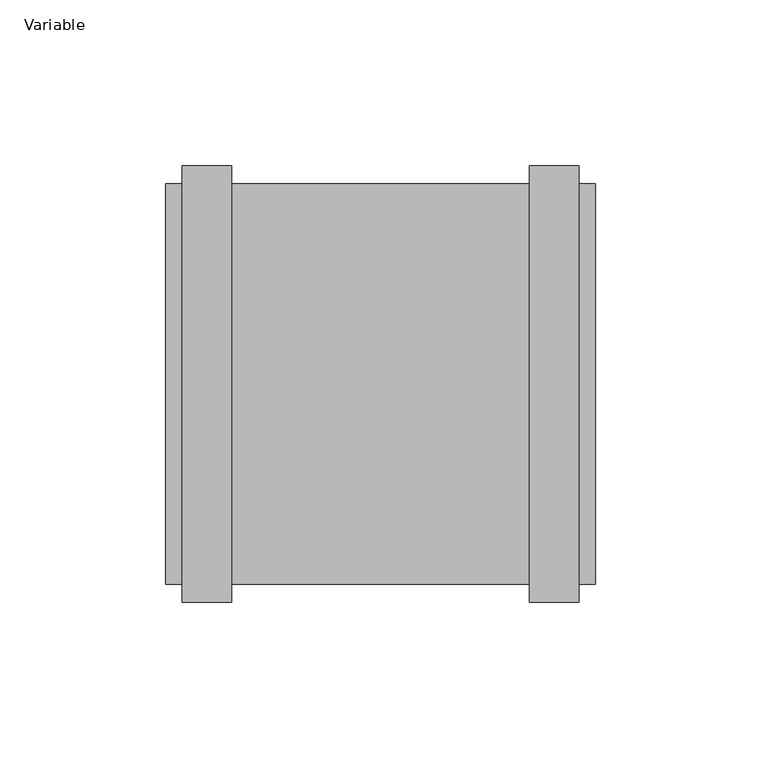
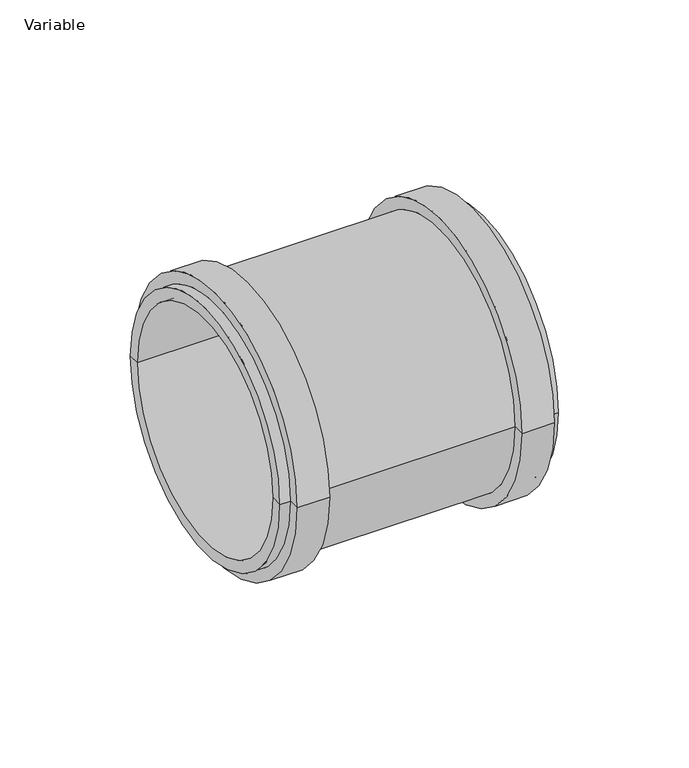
"""IFC4 building model written with IfcOpenShell, lengths in millimetres: pipe fitting geometry, AliaxisFR_Friaphon_SimpleCoupling_FR : Variable."""

from ifc_helpers import new_model, si_unit, frame, origin, place, context, project, spatial, polyline, circle_curve, source, transform, mapped, element, save
from ifc_brep_helpers import plane_surface, cylinder_surface, revolved_surface, advanced_brep


def variable_f8c56fae(model_context):
    return source(origin(), model_context, "Body", "AdvancedBrep", [
        advanced_brep(
        [(67.5, -60.5, 0.0), (67.5, 60.5, 0.0), (67.5, 55.0, 0.0), (67.5, -55.0, 0.0), (62.5, -60.5, 0.0), (62.5, 60.5, 0.0), (62.5, -66.0, 0.0), (62.5, 66.0, 0.0), (47.5, -66.0, 0.0), (47.5, 66.0, 0.0), (47.5, -60.5, 0.0), (47.5, 60.5, 0.0), (-42.5, -60.5, 0.0), (-42.5, 60.5, 0.0), (-42.5, -66.0, 0.0), (-42.5, 66.0, 0.0), (-57.5, -66.0, 0.0), (-57.5, 66.0, 0.0), (-57.5, -60.5, 0.0), (-57.5, 60.5, 0.0), (-62.5, -60.5, 0.0), (-62.5, 60.5, 0.0), (-62.5, -55.0, 0.0), (-62.5, 55.0, 0.0)],
        [
            (0, 1, circle_curve(frame((67.5, 0.0, 0.0), z_axis=(1.0, 0.0, 0.0), x_axis=(0.0, 1.0, 0.0)), 60.5)),
            (1, 2),
            (2, 3, circle_curve(frame((67.5, 0.0, 0.0), z_axis=(-1.0, 0.0, 0.0), x_axis=(0.0, 1.0, 0.0)), 55.0)),
            (3, 0),
            (1, 0, circle_curve(frame((67.5, 0.0, 0.0), z_axis=(1.0, 0.0, 0.0), x_axis=(0.0, 1.0, 0.0)), 60.5)),
            (3, 2, circle_curve(frame((67.5, 0.0, 0.0), z_axis=(-1.0, 0.0, 0.0), x_axis=(0.0, 1.0, 0.0)), 55.0)),
            (4, 5, circle_curve(frame((62.5, 0.0, 0.0), z_axis=(1.0, 0.0, 0.0), x_axis=(0.0, 1.0, 0.0)), 60.5)),
            (5, 1),
            (0, 4),
            (5, 4, circle_curve(frame((62.5, 0.0, 0.0), z_axis=(1.0, 0.0, 0.0), x_axis=(0.0, 1.0, 0.0)), 60.5)),
            (6, 7, circle_curve(frame((62.5, 0.0, 0.0), z_axis=(1.0, 0.0, 0.0), x_axis=(0.0, 1.0, 0.0)), 66.0)),
            (7, 5),
            (4, 6),
            (7, 6, circle_curve(frame((62.5, 0.0, 0.0), z_axis=(1.0, 0.0, 0.0), x_axis=(0.0, 1.0, 0.0)), 66.0)),
            (8, 9, circle_curve(frame((47.5, 0.0, 0.0), z_axis=(1.0, 0.0, 0.0), x_axis=(0.0, 1.0, 0.0)), 66.0)),
            (9, 7),
            (6, 8),
            (9, 8, circle_curve(frame((47.5, 0.0, 0.0), z_axis=(1.0, 0.0, 0.0), x_axis=(0.0, 1.0, 0.0)), 66.0)),
            (10, 11, circle_curve(frame((47.5, 0.0, 0.0), z_axis=(1.0, 0.0, 0.0), x_axis=(0.0, 1.0, 0.0)), 60.5)),
            (11, 9),
            (8, 10),
            (11, 10, circle_curve(frame((47.5, 0.0, 0.0), z_axis=(1.0, 0.0, 0.0), x_axis=(0.0, 1.0, 0.0)), 60.5)),
            (12, 13, circle_curve(frame((-42.5, 0.0, 0.0), z_axis=(1.0, 0.0, 0.0), x_axis=(0.0, 1.0, 0.0)), 60.5)),
            (13, 11),
            (10, 12),
            (13, 12, circle_curve(frame((-42.5, 0.0, 0.0), z_axis=(1.0, 0.0, 0.0), x_axis=(0.0, 1.0, 0.0)), 60.5)),
            (14, 15, circle_curve(frame((-42.5, 0.0, 0.0), z_axis=(1.0, 0.0, 0.0), x_axis=(0.0, 1.0, 0.0)), 66.0)),
            (15, 13),
            (12, 14),
            (15, 14, circle_curve(frame((-42.5, 0.0, 0.0), z_axis=(1.0, 0.0, 0.0), x_axis=(0.0, 1.0, 0.0)), 66.0)),
            (16, 17, circle_curve(frame((-57.5, 0.0, 0.0), z_axis=(1.0, 0.0, 0.0), x_axis=(0.0, 1.0, 0.0)), 66.0)),
            (17, 15),
            (14, 16),
            (17, 16, circle_curve(frame((-57.5, 0.0, 0.0), z_axis=(1.0, 0.0, 0.0), x_axis=(0.0, 1.0, 0.0)), 66.0)),
            (18, 19, circle_curve(frame((-57.5, 0.0, 0.0), z_axis=(1.0, 0.0, 0.0), x_axis=(0.0, 1.0, 0.0)), 60.5)),
            (19, 17),
            (16, 18),
            (19, 18, circle_curve(frame((-57.5, 0.0, 0.0), z_axis=(1.0, 0.0, 0.0), x_axis=(0.0, 1.0, 0.0)), 60.5)),
            (20, 21, circle_curve(frame((-62.5, 0.0, 0.0), z_axis=(1.0, 0.0, 0.0), x_axis=(0.0, 1.0, 0.0)), 60.5)),
            (21, 19),
            (18, 20),
            (21, 20, circle_curve(frame((-62.5, 0.0, 0.0), z_axis=(1.0, 0.0, 0.0), x_axis=(0.0, 1.0, 0.0)), 60.5)),
            (22, 23, circle_curve(frame((-62.5, 0.0, 0.0), z_axis=(1.0, 0.0, 0.0), x_axis=(0.0, 1.0, 0.0)), 55.0)),
            (23, 21),
            (20, 22),
            (23, 22, circle_curve(frame((-62.5, 0.0, 0.0), z_axis=(1.0, 0.0, 0.0), x_axis=(0.0, 1.0, 0.0)), 55.0)),
            (2, 23),
            (22, 3),
        ],
        [
            plane_surface(frame((67.5, 0.0, 0.0), z_axis=(1.0, 0.0, 0.0), x_axis=(0.0, 1.0, 0.0))),
            cylinder_surface(frame((2015.5, 0.0, 0.0), z_axis=(-1.0, 0.0, 0.0), x_axis=(0.0, 1.0, 0.0)), 60.5),
            plane_surface(frame((62.5, 0.0, 0.0), z_axis=(1.0, 0.0, 0.0), x_axis=(0.0, 1.0, 0.0))),
            cylinder_surface(frame((2015.5, 0.0, 0.0), z_axis=(-1.0, 0.0, 0.0), x_axis=(0.0, 1.0, 0.0)), 66.0),
            plane_surface(frame((47.5, 0.0, 0.0), z_axis=(-1.0, 0.0, 0.0), x_axis=(0.0, 1.0, 0.0))),
            plane_surface(frame((-42.5, 0.0, 0.0), z_axis=(1.0, 0.0, 0.0), x_axis=(0.0, 1.0, 0.0))),
            plane_surface(frame((-57.5, 0.0, 0.0), z_axis=(-1.0, 0.0, 0.0), x_axis=(0.0, 1.0, 0.0))),
            plane_surface(frame((-62.5, 0.0, 0.0), z_axis=(-1.0, 0.0, 0.0), x_axis=(0.0, 1.0, 0.0))),
            revolved_surface(polyline([(-62.5, 55.0, 0.0), (67.5, 55.0, 0.0)]), (2015.5, 0.0, 0.0), (-1.0, 0.0, 0.0)),
        ],
        [
            (0, [[1, 2, 3, 4]]),
            (0, [[5, -4, 6, -2]]),
            (1, [[7, 8, -1, 9]]),
            (1, [[10, -9, -5, -8]]),
            (2, [[11, 12, -7, 13]]),
            (2, [[14, -13, -10, -12]]),
            (3, [[15, 16, -11, 17]]),
            (3, [[18, -17, -14, -16]]),
            (4, [[19, 20, -15, 21]]),
            (4, [[22, -21, -18, -20]]),
            (1, [[23, 24, -19, 25]]),
            (1, [[26, -25, -22, -24]]),
            (5, [[27, 28, -23, 29]]),
            (5, [[30, -29, -26, -28]]),
            (3, [[31, 32, -27, 33]]),
            (3, [[34, -33, -30, -32]]),
            (6, [[35, 36, -31, 37]]),
            (6, [[38, -37, -34, -36]]),
            (1, [[39, 40, -35, 41]]),
            (1, [[42, -41, -38, -40]]),
            (7, [[43, 44, -39, 45]]),
            (7, [[46, -45, -42, -44]]),
            (8, [[-3, 47, -43, 48]]),
            (8, [[-6, -48, -46, -47]]),
        ],
    ),
    ])


if __name__ == "__main__":
    model = new_model("IFC4")
    model_context = context("Model", 3, world=origin())
    ifc_project = project(units=[si_unit("LENGTHUNIT", "METRE", prefix="MILLI")], contexts=[model_context])
    site = spatial("IfcSite", under=ifc_project)
    building = spatial("IfcBuilding", under=site)
    placement = place(None, origin())
    variable_shape = variable_f8c56fae(model_context)
    element("IfcPipeFitting", 1, ObjectType="AliaxisFR_Friaphon_SimpleCoupling_FR : Variable", at=placement, inside=building, context=model_context, shape_type="MappedRepresentation", body=[
        mapped(variable_shape, transform((0.0, 0.0, 0.0), x_axis=(1.0, 0.0, 0.0), y_axis=(0.0, 1.0, 0.0), z_axis=(0.0, 0.0, 1.0))),
    ])
    save(model, "model.ifc")
